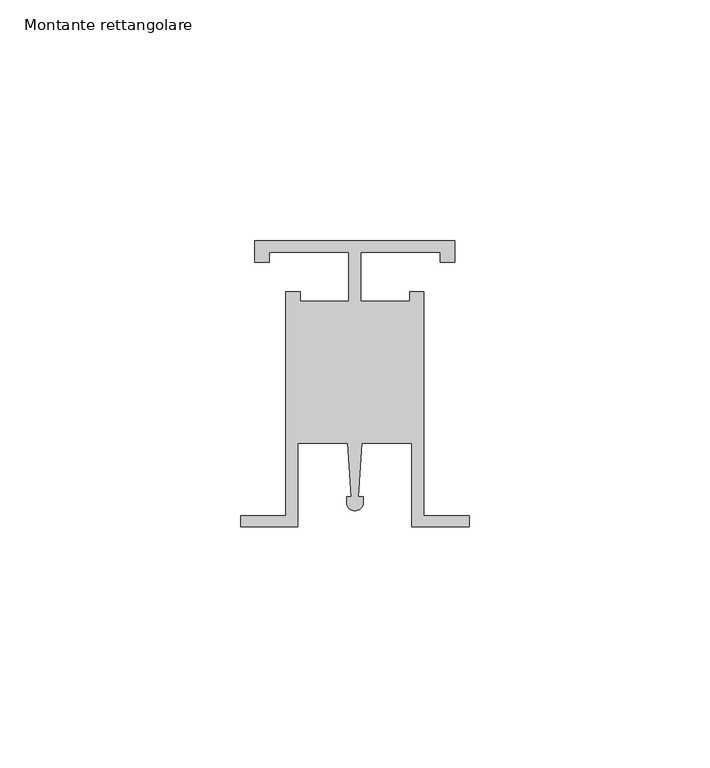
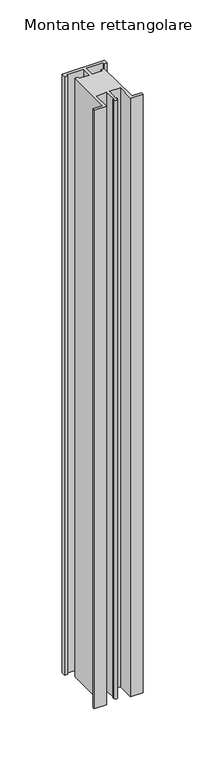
"""IFC4 building model written with IfcOpenShell, lengths in millimetres: member geometry, Montante rettangolare : Verde Profilo's Uprights."""

from ifc_helpers import new_model, si_unit, point, frame, frame_2d, origin, place, context, project, spatial, polyline, circle_curve, trimmed, segment, composite_curve, outline, extrude, source, transform, mapped, element, save


def montante_rettangolare_d40cfa43(model_context):
    return source(origin(), model_context, "Body", "SweptSolid", [
        extrude(outline(composite_curve([segment(polyline([(-44.5191881, 0.0), (-3.0, 0.0), (-3.0, -4.4643434), (-5.9763281, -4.4643434), (-5.9763281, -2.4801246), (-22.5192241, -2.4801246), (-22.5192241, -12.5992217), (-12.4008018, -12.5992217), (-12.4008018, -10.6150029), (-9.4244736, -10.6150029), (-9.4244736, -57.1992491), (0.0, -57.1992491), (0.0, -59.5229914), (-11.9045983, -59.5229914), (-11.9045983, -42.1200913), (-22.2878429, -42.1200913), (-23.0155567, -53.2310496), (-22.0219337, -53.2310496), (-22.0219337, -54.4070013)]), True, "CONTINUOUS"), segment(trimmed(circle_curve(frame_2d((-23.7595941, -54.4070013)), 1.7376604), [point((-22.0219337, -54.4070013))], [point((-25.4972545, -54.4070013))], False, "CARTESIAN"), True, "CONTINUOUS"), segment(polyline([(-25.4972545, -54.4070013), (-25.4972545, -53.2310496), (-24.5036314, -53.2310496), (-25.2313452, -42.1200913), (-35.6145898, -42.1200913), (-35.6145898, -59.5229914), (-47.5191881, -59.5229914), (-47.5191881, -57.1992491), (-38.0947145, -57.1992491), (-38.0947145, -10.6150029), (-35.1183863, -10.6150029), (-35.1183863, -12.5992217), (-24.999964, -12.5992217), (-24.999964, -2.4801246), (-41.54286, -2.4801246), (-41.54286, -4.4643434), (-44.5191881, -4.4643434), (-44.5191881, 0.0)]), True, "CONTINUOUS")], self_intersect=False)), frame((0.0, 0.0, -617.5198754), z_axis=(0.0, 0.0, 1.0), x_axis=(1.0, 0.0, 0.0)), (0.0, 0.0, 1.0), 617.5198754),
    ])


if __name__ == "__main__":
    model = new_model("IFC4")
    model_context = context("Model", 3, world=origin())
    ifc_project = project(units=[si_unit("LENGTHUNIT", "METRE", prefix="MILLI")], contexts=[model_context])
    site = spatial("IfcSite", under=ifc_project)
    building = spatial("IfcBuilding", under=site)
    placement = place(None, origin())
    montante_rettangolare_shape = montante_rettangolare_d40cfa43(model_context)
    element("IfcMember", 1, ObjectType="Montante rettangolare : Verde Profilo's Uprights", at=placement, inside=building, context=model_context, shape_type="MappedRepresentation", body=[
        mapped(montante_rettangolare_shape, transform((0.0, 0.0, 0.0), x_axis=(1.0, 0.0, 0.0), y_axis=(0.0, 1.0, 0.0), z_axis=(0.0, 0.0, 1.0))),
    ])
    save(model, "model.ifc")
